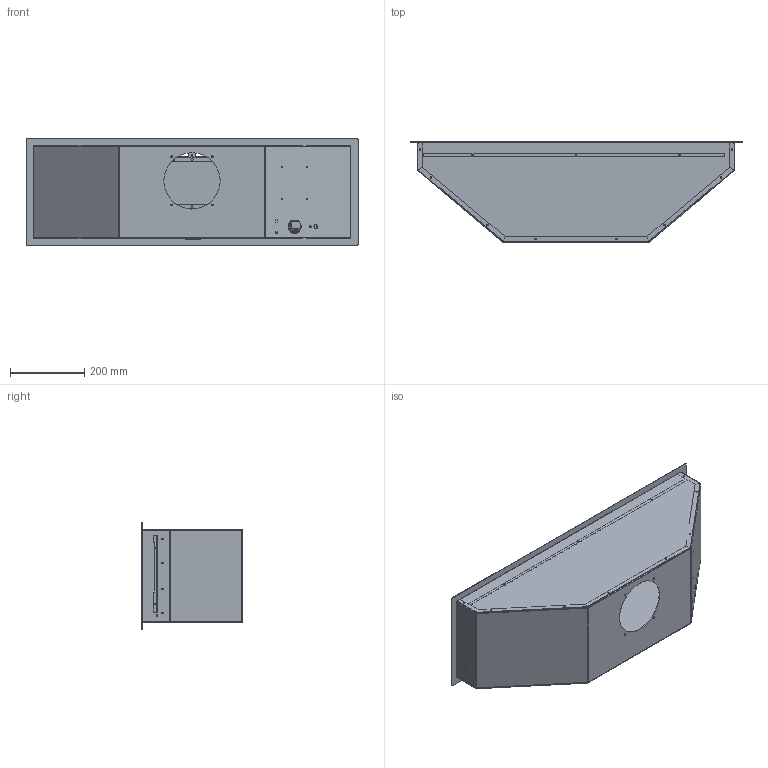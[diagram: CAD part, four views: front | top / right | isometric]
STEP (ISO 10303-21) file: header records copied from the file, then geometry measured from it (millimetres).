
FILE_DESCRIPTION (( 'STEP AP214' ), '1' );
FILE_NAME ('KSG9P4X.STEP', '2025-10-16T08:07:14', ( '' ), ( '' ), 'SwSTEP 2.0', 'SolidWorks 2025', '' );
FILE_SCHEMA (( 'AUTOMOTIVE_DESIGN' ));
Length unit declared in the file: millimetre
Products named in the file (12): TG02852; 9811476A; TG02848; KSG9P4X; 2602849; 9811475A; 2602866; IN02848; 2602853A; 1800047; 2602851; 1720595_vetro
Assembly tree (13 placements, depth 4):
  KSG9P4X
    9811475A
      IN02848
        TG02848
        1720595_vetro
        2602849
        2602866
      1800047  x2
    2602851
    TG02852  x2
    9811476A
      2602853A
Bounding box: 897 x 271.6 x 290 mm (x, y, z)
Volume: 1064523.8 mm3; surface area: 2248520.9 mm2
Topology: 12 solids, 12 shells, 1300 faces, 3327 edges, 2114 vertices
Faces by surface type: plane 734, cylinder 506, bspline 52, torus 8
Entity records: 38736 total; most frequent: CARTESIAN_POINT 8898, DIRECTION 6091, ORIENTED_EDGE 6078, EDGE_CURVE 3039, LINE 2053, VECTOR 2053, AXIS2_PLACEMENT_3D 2019, VERTEX_POINT 1926
